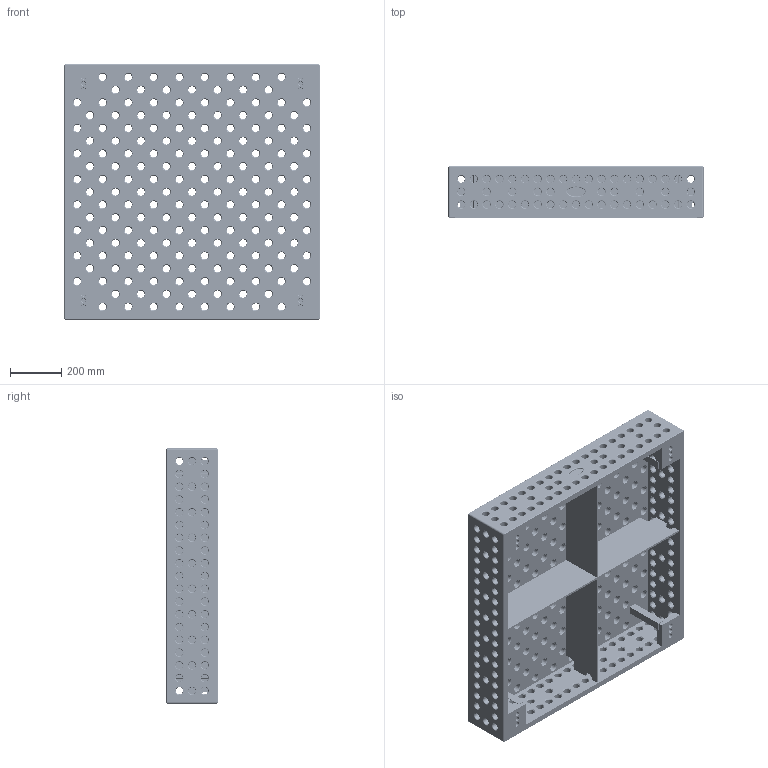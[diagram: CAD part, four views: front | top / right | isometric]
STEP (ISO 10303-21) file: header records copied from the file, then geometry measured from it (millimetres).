
FILE_DESCRIPTION (( 'STEP AP203' ), '1' );
FILE_NAME ('280010.XD7D.STEP', '2020-11-30T14:06:56', ( '' ), ( '' ), 'SwSTEP 2.0', 'SolidWorks 2019', '' );
FILE_SCHEMA (( 'CONFIG_CONTROL_DESIGN' ));
Products named in the file (1): 280010.XD7D
Bounding box: 1000 x 200 x 1000 mm (x, y, z)
Volume: 39551800.1 mm3; surface area: 4503242.4 mm2
Topology: 1 solids, 1 shells, 2406 faces, 5680 edges, 3268 vertices
Faces by surface type: cone 794, cylinder 792, torus 746, plane 66, bspline 8
Entity records: 72335 total; most frequent: DIRECTION 14332, CARTESIAN_POINT 12695, ORIENTED_EDGE 11360, AXIS2_PLACEMENT_3D 6269, EDGE_CURVE 5680, CIRCLE 3870, VERTEX_POINT 3268, EDGE_LOOP 3188
